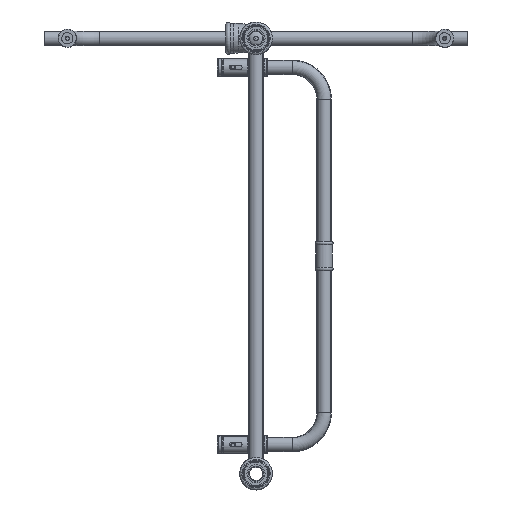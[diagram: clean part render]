
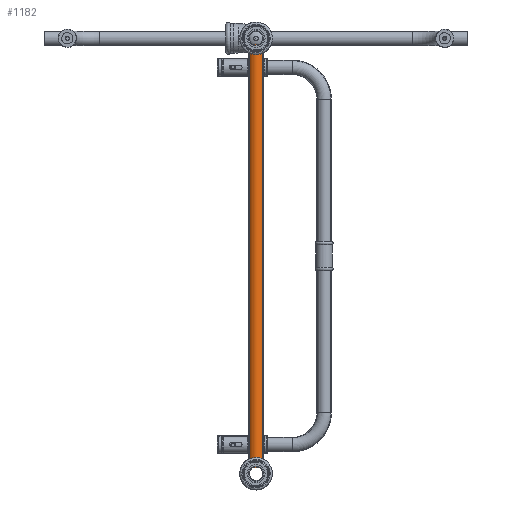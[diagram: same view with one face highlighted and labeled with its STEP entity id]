
A CAD part, front view. The second image highlights one B-rep face of the part: STEP entity #1182.
In plain terms, the highlighted cylindrical face has radius 10 mm (diameter 20 mm), a full revolution.
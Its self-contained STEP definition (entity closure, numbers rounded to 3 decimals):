
#1182 = ADVANCED_FACE( '', ( #2489, #2490 ), #2491, .T. );
#2489 = FACE_OUTER_BOUND( '', #4628, .T. );
#2490 = FACE_OUTER_BOUND( '', #4629, .T. );
#2491 = CYLINDRICAL_SURFACE( '', #4630, 10. );
#4628 = EDGE_LOOP( '', ( #6919 ) );
#4629 = EDGE_LOOP( '', ( #6920 ) );
#4630 = AXIS2_PLACEMENT_3D( '', #6921, #6922, #6923 );
#6919 = ORIENTED_EDGE( '', *, *, #9318, .T. );
#6920 = ORIENTED_EDGE( '', *, *, #9319, .F. );
#6921 = CARTESIAN_POINT( '', ( 292., 0., 0. ) );
#6922 = DIRECTION( '', ( 1., 0., 0. ) );
#6923 = DIRECTION( '', ( 0., 0., 1. ) );
#9318 = EDGE_CURVE( '', #10423, #10423, #10424, .T. );
#9319 = EDGE_CURVE( '', #10425, #10425, #10426, .T. );
#10423 = VERTEX_POINT( '', #15556 );
#10424 = CIRCLE( '', #15557, 10. );
#10425 = VERTEX_POINT( '', #15558 );
#10426 = CIRCLE( '', #15559, 10. );
#15556 = CARTESIAN_POINT( '', ( 292., 10., 0. ) );
#15557 = AXIS2_PLACEMENT_3D( '', #24396, #24397, #24398 );
#15558 = CARTESIAN_POINT( '', ( -292., 10., 0. ) );
#15559 = AXIS2_PLACEMENT_3D( '', #24399, #24400, #24401 );
#24396 = CARTESIAN_POINT( '', ( 292., 0., 0. ) );
#24397 = DIRECTION( '', ( -1., 0., 0. ) );
#24398 = DIRECTION( '', ( 0., 1., 0. ) );
#24399 = CARTESIAN_POINT( '', ( -292., 0., 0. ) );
#24400 = DIRECTION( '', ( -1., 0., 0. ) );
#24401 = DIRECTION( '', ( 0., 1., 0. ) );
